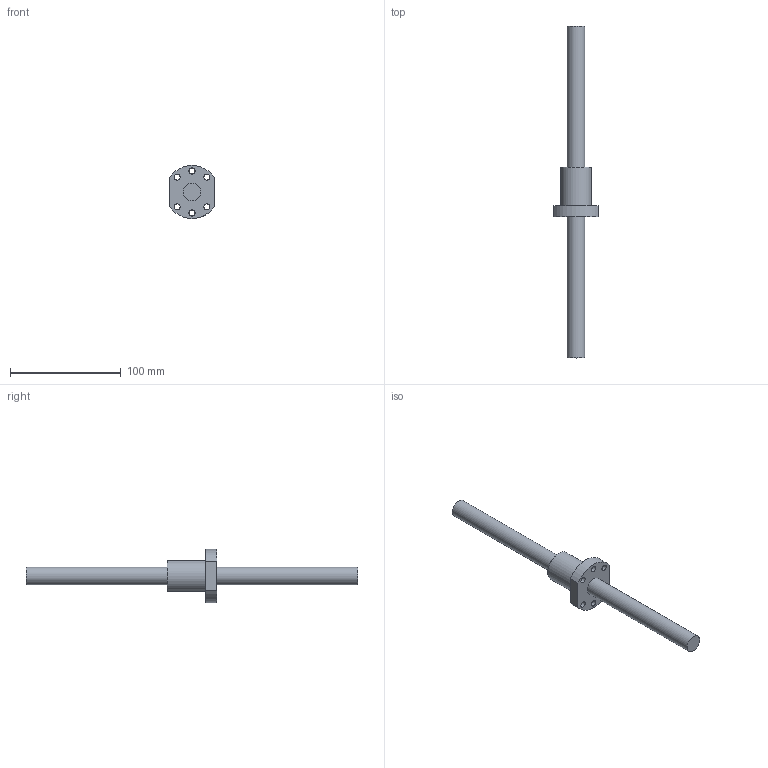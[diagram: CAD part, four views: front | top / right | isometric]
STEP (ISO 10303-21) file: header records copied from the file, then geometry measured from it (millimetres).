
FILE_DESCRIPTION (( 'STEP AP203' ), '1' );
FILE_NAME ('SFNU1605.STEP', '2023-06-06T08:30:51', ( '' ), ( '' ), 'SwSTEP 2.0', 'SolidWorks 2022', '' );
FILE_SCHEMA (( 'CONFIG_CONTROL_DESIGN' ));
Length unit declared in the file: millimetre
Products named in the file (1): SFNU1605
Bounding box: 40 x 300 x 48 mm (x, y, z)
Volume: 87671.7 mm3; surface area: 26195.5 mm2
Topology: 2 solids, 2 shells, 22 faces, 54 edges, 38 vertices
Faces by surface type: cylinder 13, plane 8, torus 1
Full cylindrical faces by diameter (mm): 5 x1, 5.5 x6, 6 x1, 16 x2, 28 x1
Entity records: 777 total; most frequent: CARTESIAN_POINT 215, DIRECTION 104, ORIENTED_EDGE 70, EDGE_LOOP 52, AXIS2_PLACEMENT_3D 48, EDGE_CURVE 35, FACE_OUTER_BOUND 34, VERTEX_POINT 31
